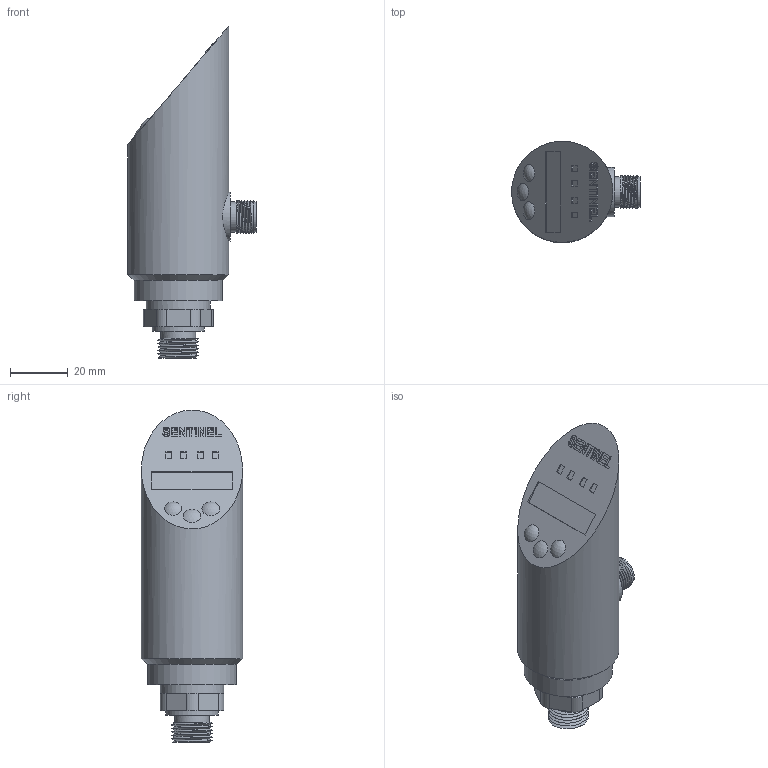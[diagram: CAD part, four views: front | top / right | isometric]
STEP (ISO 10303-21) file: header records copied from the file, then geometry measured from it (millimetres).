
FILE_DESCRIPTION(/* description */ (''),/* implementation_level */ '2;1');
FILE_NAME(/* name */ 'SEB7-1-4GA-APN8D-SC.stp',/* time_stamp */ '2022-06-14T15:14:44+08:00',/* author */ (''),/* organization */ (''),/* preprocessor_version */ 'ST-DEVELOPER v16',/* originating_system */ 'SIEMENS PLM Software NX 10.0',/* authorisation */ '');
FILE_SCHEMA (('CONFIG_CONTROL_DESIGN'));
Length unit declared in the file: millimetre
Products named in the file (1): pressure sensor
Bounding box: 44.5 x 35 x 114.8 mm (x, y, z)
Surface area: 13047.1 mm2 (no closed solid volume)
Topology: 0 solids, 1 shells, 176 faces, 445 edges, 299 vertices
Faces by surface type: plane 128, cylinder 24, extrusion 16, bspline 4, sphere 3, cone 1
Full cylindrical faces by diameter (mm): 0.75 x5, 4 x1, 9 x1, 10.5 x2, 12 x1, 17 x1, 18 x1, 22 x1, 30.558 x1, 35 x1
Entity records: 6844 total; most frequent: CARTESIAN_POINT 3010, ORIENTED_EDGE 818, DIRECTION 614, EDGE_CURVE 409, VERTEX_POINT 281, EDGE_LOOP 222, AXIS2_PLACEMENT_3D 211, B_SPLINE_CURVE_WITH_KNOTS 195
